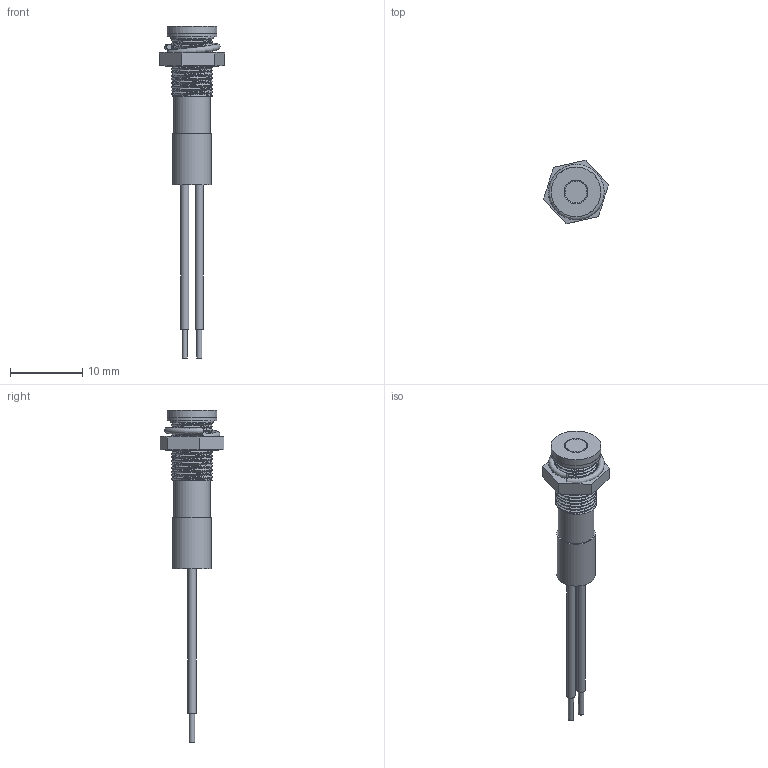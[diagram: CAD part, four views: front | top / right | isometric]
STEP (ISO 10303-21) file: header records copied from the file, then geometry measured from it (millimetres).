
FILE_DESCRIPTION(/* description */ ('AdapterTestApp'),/* implementation_level */ '2;1');
FILE_NAME(/* name */ 'Q6F3C-std 2 wire',/* time_stamp */ '2017-11-20T12:14:27+00:00',/* author */ ('AdapterTestApp'),/* organization */ ('Siemens PLM Software'),/* preprocessor_version */ 'ST-DEVELOPER v15.6',/* originating_system */ 'DEX',/* authorisation */ $);
FILE_SCHEMA (('AUTOMOTIVE_DESIGN {1 0 10303 214 3 1 1}'));
Length unit declared in the file: millimetre
Products named in the file (9): Q6F3C-std 2 wire; 14-0120iss5; 3mmLED-flush-cut; 26-0047; 34-0082; wire-black-short; 21-0025; wire-red short; 13-0035
Assembly tree (8 placements, depth 2):
  Q6F3C-std 2 wire
    14-0120iss5
    3mmLED-flush-cut
    26-0047
    34-0082
    wire-black-short
    21-0025
    wire-red short
    13-0035
Bounding box: 9.02 x 8.81 x 46 mm (x, y, z)
Volume: 478 mm3; surface area: 1577 mm2
Topology: 8 solids, 8 shells, 118 faces, 276 edges, 185 vertices
Faces by surface type: plane 67, cylinder 31, cone 12, bspline 6, torus 2
Full cylindrical faces by diameter (mm): 0.75 x4, 1.15 x2, 1.3 x2, 3 x1, 3.1 x1, 3.4 x1, 4.225 x1, 4.3 x1, 5 x1, 5.3 x1, 5.75 x1, 5.9 x1, 6.9 x2
Entity records: 7822 total; most frequent: CARTESIAN_POINT 5112, DIRECTION 518, ORIENTED_EDGE 486, EDGE_CURVE 243, AXIS2_PLACEMENT_3D 208, VERTEX_POINT 176, EDGE_LOOP 163, FACE_BOUND 163
